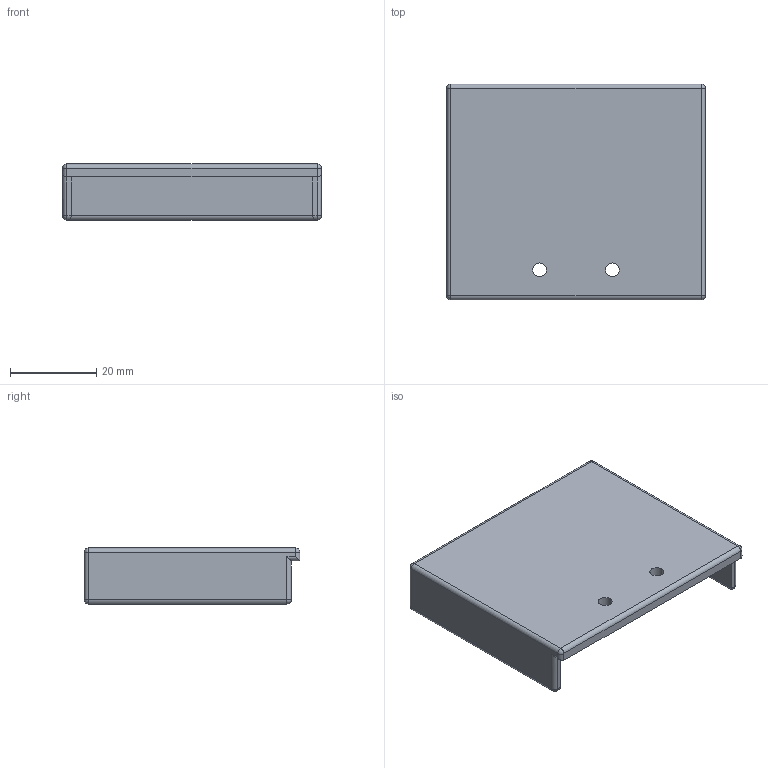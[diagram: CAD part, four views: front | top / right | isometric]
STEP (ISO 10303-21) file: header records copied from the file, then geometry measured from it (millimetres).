
FILE_DESCRIPTION (( 'STEP AP214' ), '1' );
FILE_NAME ('Schiene_Cover.STEP', '2025-11-13T18:02:56', ( '' ), ( '' ), 'SwSTEP 2.0', 'SolidWorks 2025', '' );
FILE_SCHEMA (( 'AUTOMOTIVE_DESIGN' ));
Length unit declared in the file: millimetre
Products named in the file (1): Schiene_Cover
Bounding box: 60 x 50 x 13 mm (x, y, z)
Volume: 11867.8 mm3; surface area: 9516.4 mm2
Topology: 1 solids, 1 shells, 43 faces, 97 edges, 48 vertices
Faces by surface type: cylinder 24, plane 11, sphere 8
Entity records: 1134 total; most frequent: CARTESIAN_POINT 205, DIRECTION 201, ORIENTED_EDGE 178, EDGE_CURVE 89, AXIS2_PLACEMENT_3D 76, VECTOR 49, LINE 49, VERTEX_POINT 48
